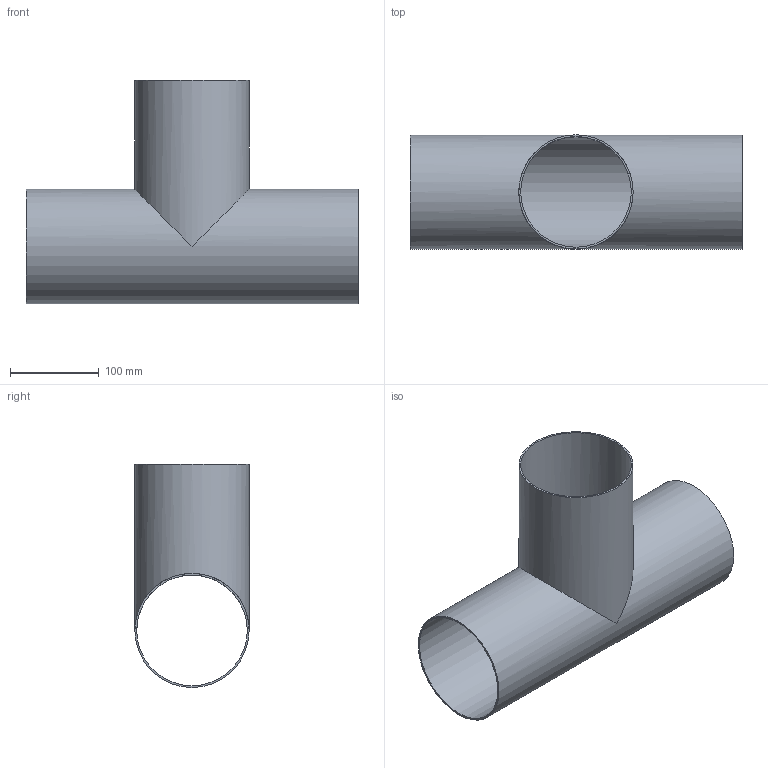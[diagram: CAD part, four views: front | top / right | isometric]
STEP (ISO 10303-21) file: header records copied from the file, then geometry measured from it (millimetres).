
FILE_DESCRIPTION(('FreeCAD Model'),'2;1');
FILE_NAME( '/home/martin/Documents/proyect/accesorios/stp/te_long_DN-125.step', '2018-01-07T08:11:49',('Author'),(''), 'Open CASCADE STEP processor 6.8','FreeCAD','Unknown');
FILE_SCHEMA(('AUTOMOTIVE_DESIGN_CC2 { 1 2 10303 214 -1 1 5 4 }'));
Length unit declared in the file: millimetre
Products named in the file (1): te_long_DN-125
Bounding box: 375 x 129 x 252 mm (x, y, z)
Volume: 384333.7 mm3; surface area: 386716.9 mm2
Topology: 1 solids, 1 shells, 7 faces, 16 edges, 12 vertices
Faces by surface type: cylinder 4, plane 3
Full cylindrical faces by diameter (mm): 125 x2, 129 x2
Entity records: 539 total; most frequent: CARTESIAN_POINT 180, DIRECTION 64, ORIENTED_EDGE 32, PCURVE 32, DEFINITIONAL_REPRESENTATION 32, AXIS2_PLACEMENT_3D 20, LINE 18, VECTOR 18
